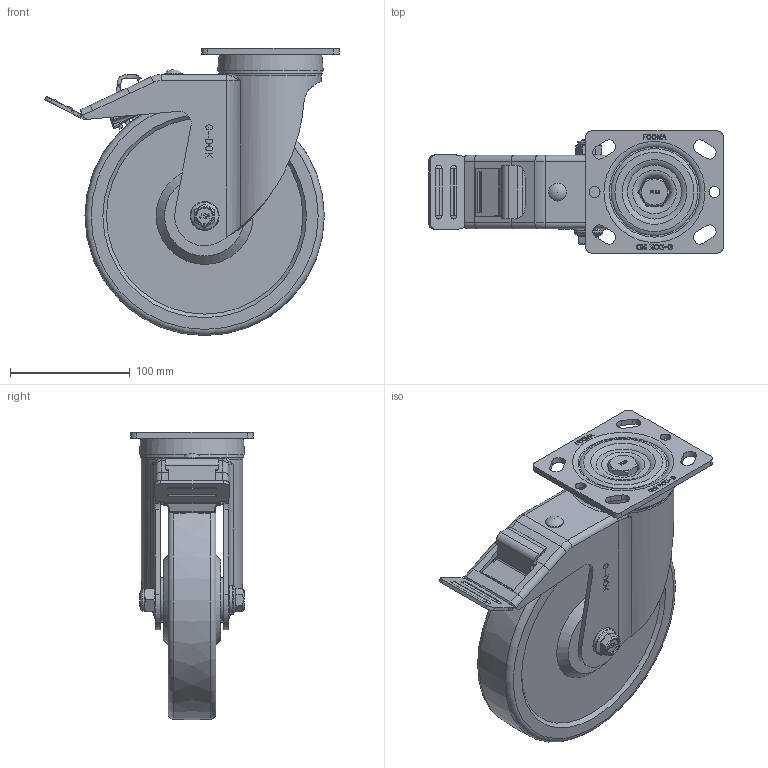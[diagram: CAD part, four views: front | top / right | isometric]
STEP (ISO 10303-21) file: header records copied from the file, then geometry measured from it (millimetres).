
FILE_DESCRIPTION(/* description */ (''),/* implementation_level */ '2;1');
FILE_NAME(/* name */ '\\192.168.10.38\지덕공유\1.기술연구소\2.연구개발 진행중\28.PLM-SERIES_MEDIUM\제품설계\홈페이지용 도면\PLM-200-BSF-MCD.stp',/* time_stamp */ '2022-03-04T18:48:12+09:00',/* author */ ('admin'),/* organization */ (''),/* preprocessor_version */ 'ST-DEVELOPER v18.1',/* originating_system */ 'Autodesk Inventor 2021',/* authorisation */ '');
FILE_SCHEMA (('AUTOMOTIVE_DESIGN { 1 0 10303 214 3 1 1 }'));
Products named in the file (1): PLM-200-BSF-MCD
Bounding box: 246.12 x 102 x 239.97 mm (x, y, z)
Volume: 1530227.3 mm3; surface area: 219896 mm2
Topology: 3 solids, 3 shells, 1680 faces, 4572 edges, 2943 vertices
Faces by surface type: plane 949, cylinder 375, bspline 243, cone 52, torus 40, sphere 21
Full cylindrical faces by diameter (mm): 0.136 x1, 3 x1, 3.2 x3, 6 x2, 9 x3, 12 x1, 14 x1, 15 x1, 16 x1, 18.5 x1, 24 x1, 37 x2, 64.8 x1, 72.8 x1, 85.857 x1
Entity records: 59504 total; most frequent: CARTESIAN_POINT 18558, ORIENTED_EDGE 9098, DIRECTION 7680, EDGE_CURVE 4549, VERTEX_POINT 2943, LINE 2860, VECTOR 2860, AXIS2_PLACEMENT_3D 2410
